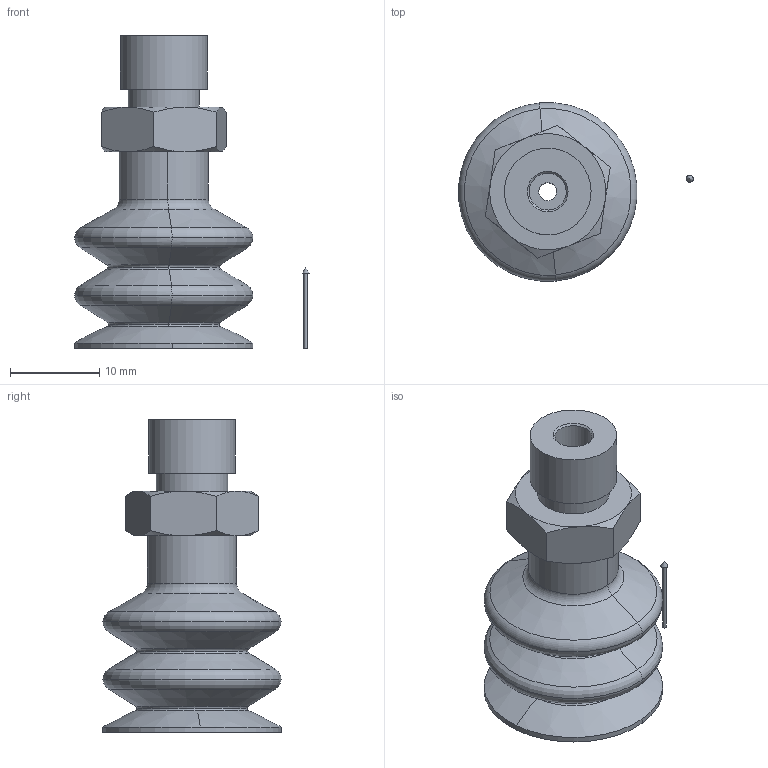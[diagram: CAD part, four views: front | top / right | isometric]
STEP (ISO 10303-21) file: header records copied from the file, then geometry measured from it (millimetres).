
FILE_DESCRIPTION(('STEP AP214'),'1');
FILE_NAME('KIT.08.32.D20.9.stp','2019-05-28T06:53:20',(' '),(' '),'Spatial InterOp 3D',' ',' ');
FILE_SCHEMA(('AUTOMOTIVE_DESIGN { 1 0 10303 214 1 1 1 1 }'));
Length unit declared in the file: millimetre
Products named in the file (5): KIT.08.32.D20.9; CA.08.09.009; CA.08.32.D20
Assembly tree (4 placements, depth 3):
  KIT.08.32.D20.9
    CA.08.09.009
    (unnamed)
      CA.08.32.D20
      CA.08.32.D20
Bounding box: 26.26 x 19.93 x 35.01 mm (x, y, z)
Volume: 4912.4 mm3; surface area: 3360.8 mm2
Topology: 3 solids, 3 shells, 83 faces, 169 edges, 100 vertices
Faces by surface type: cone 27, plane 20, torus 18, cylinder 16, sphere 2
Full cylindrical faces by diameter (mm): 0.4 x1, 2 x1, 4.134 x1, 4.5 x1, 8 x1, 9.7 x1
Entity records: 2920 total; most frequent: CARTESIAN_POINT 434, DIRECTION 410, ORIENTED_EDGE 306, AXIS2_PLACEMENT_3D 192, EDGE_CURVE 153, EDGE_LOOP 106, CIRCLE 103, VERTEX_POINT 96
